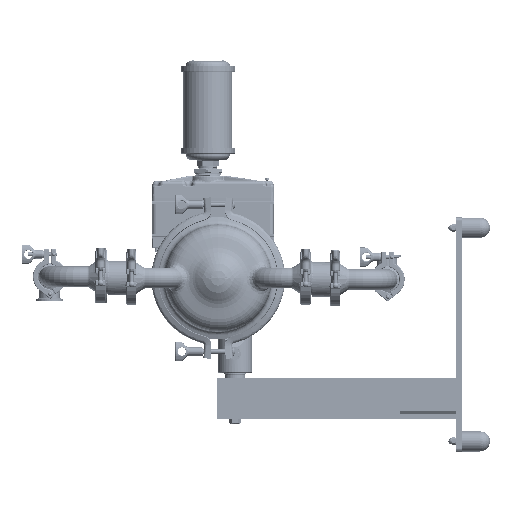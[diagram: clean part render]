
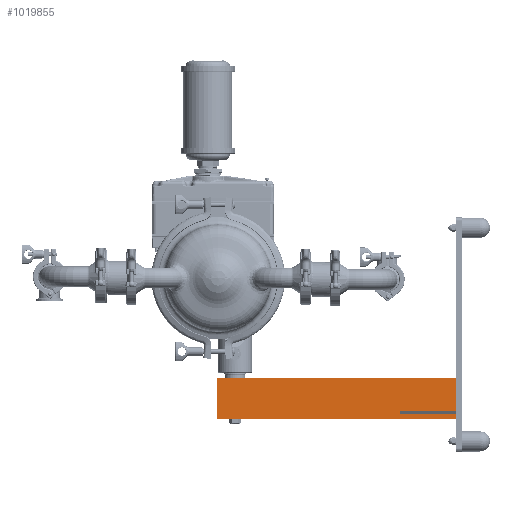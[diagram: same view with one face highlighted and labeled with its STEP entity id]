
A CAD part, left-side view. The second image highlights one B-rep face of the part: STEP entity #1019855.
In plain terms, the highlighted planar face has unit normal (-1, 0, 0).
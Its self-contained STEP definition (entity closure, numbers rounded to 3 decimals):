
#1011290=DIRECTION('',(0.,0.,-1.));
#1011291=VECTOR('',#1011290,2.39);
#1011292=CARTESIAN_POINT('',(-1.,-17.22,-7.236));
#1011293=LINE('',#1011292,#1011291);
#1011322=DIRECTION('',(0.,0.,-1.));
#1011323=VECTOR('',#1011322,0.36);
#1011324=CARTESIAN_POINT('',(-1.,-17.22,-9.876));
#1011325=LINE('',#1011324,#1011323);
#1011858=DIRECTION('',(0.,1.,0.));
#1011859=VECTOR('',#1011858,17.313);
#1011860=CARTESIAN_POINT('',(-1.,-17.22,-10.236));
#1011861=LINE('',#1011860,#1011859);
#1011862=DIRECTION('',(0.,1.,0.));
#1011863=VECTOR('',#1011862,4.);
#1011864=CARTESIAN_POINT('',(-1.,-17.22,-9.626));
#1011865=LINE('',#1011864,#1011863);
#1011866=DIRECTION('',(0.,0.,-1.));
#1011867=VECTOR('',#1011866,0.25);
#1011868=CARTESIAN_POINT('',(-1.,-13.22,-9.626));
#1011869=LINE('',#1011868,#1011867);
#1011870=DIRECTION('',(0.,1.,0.));
#1011871=VECTOR('',#1011870,4.);
#1011872=CARTESIAN_POINT('',(-1.,-17.22,-9.876));
#1011873=LINE('',#1011872,#1011871);
#1012452=DIRECTION('',(0.,1.,0.));
#1012453=VECTOR('',#1012452,17.313);
#1012454=CARTESIAN_POINT('',(-1.,-17.22,-7.236));
#1012455=LINE('',#1012454,#1012453);
#1013026=DIRECTION('',(0.,0.,1.));
#1013027=VECTOR('',#1013026,3.);
#1013028=CARTESIAN_POINT('',(-1.,0.093,-10.236));
#1013029=LINE('',#1013028,#1013027);
#1018665=CARTESIAN_POINT('',(-1.,-17.22,-10.236));
#1018667=VERTEX_POINT('',#1018665);
#1018670=CARTESIAN_POINT('',(-1.,-17.22,-7.236));
#1018672=VERTEX_POINT('',#1018670);
#1018693=CARTESIAN_POINT('',(-1.,-17.22,-9.626));
#1018695=VERTEX_POINT('',#1018693);
#1018697=CARTESIAN_POINT('',(-1.,-17.22,-9.876));
#1018699=VERTEX_POINT('',#1018697);
#1018701=CARTESIAN_POINT('',(-1.,-13.22,-9.626));
#1018702=VERTEX_POINT('',#1018701);
#1018703=CARTESIAN_POINT('',(-1.,-13.22,-9.876));
#1018704=VERTEX_POINT('',#1018703);
#1018706=CARTESIAN_POINT('',(-1.,0.093,-10.236));
#1018708=VERTEX_POINT('',#1018706);
#1018709=CARTESIAN_POINT('',(-1.,0.093,-7.236));
#1018710=VERTEX_POINT('',#1018709);
#1019837=CARTESIAN_POINT('',(-1.,-0.157,-7.236));
#1019838=DIRECTION('',(-1.,0.,0.));
#1019839=DIRECTION('',(0.,0.,-1.));
#1019840=AXIS2_PLACEMENT_3D('',#1019837,#1019838,#1019839);
#1019841=PLANE('',#1019840);
#1019843=ORIENTED_EDGE('',*,*,#1019842,.T.);
#1019845=ORIENTED_EDGE('',*,*,#1019844,.T.);
#1019847=ORIENTED_EDGE('',*,*,#1019846,.F.);
#1019848=ORIENTED_EDGE('',*,*,#1019114,.T.);
#1019849=ORIENTED_EDGE('',*,*,#1019806,.T.);
#1019850=ORIENTED_EDGE('',*,*,#1019819,.T.);
#1019851=ORIENTED_EDGE('',*,*,#1019831,.F.);
#1019852=ORIENTED_EDGE('',*,*,#1019130,.T.);
#1019853=EDGE_LOOP('',(#1019843,#1019845,#1019847,#1019848,#1019849,#1019850,
#1019851,#1019852));
#1019854=FACE_OUTER_BOUND('',#1019853,.F.);
#1019114=EDGE_CURVE('',#1018672,#1018695,#1011293,.T.);
#1019130=EDGE_CURVE('',#1018699,#1018667,#1011325,.T.);
#1019806=EDGE_CURVE('',#1018695,#1018702,#1011865,.T.);
#1019819=EDGE_CURVE('',#1018702,#1018704,#1011869,.T.);
#1019831=EDGE_CURVE('',#1018699,#1018704,#1011873,.T.);
#1019842=EDGE_CURVE('',#1018667,#1018708,#1011861,.T.);
#1019844=EDGE_CURVE('',#1018708,#1018710,#1013029,.T.);
#1019846=EDGE_CURVE('',#1018672,#1018710,#1012455,.T.);
#1019855=ADVANCED_FACE('',(#1019854),#1019841,.T.);
